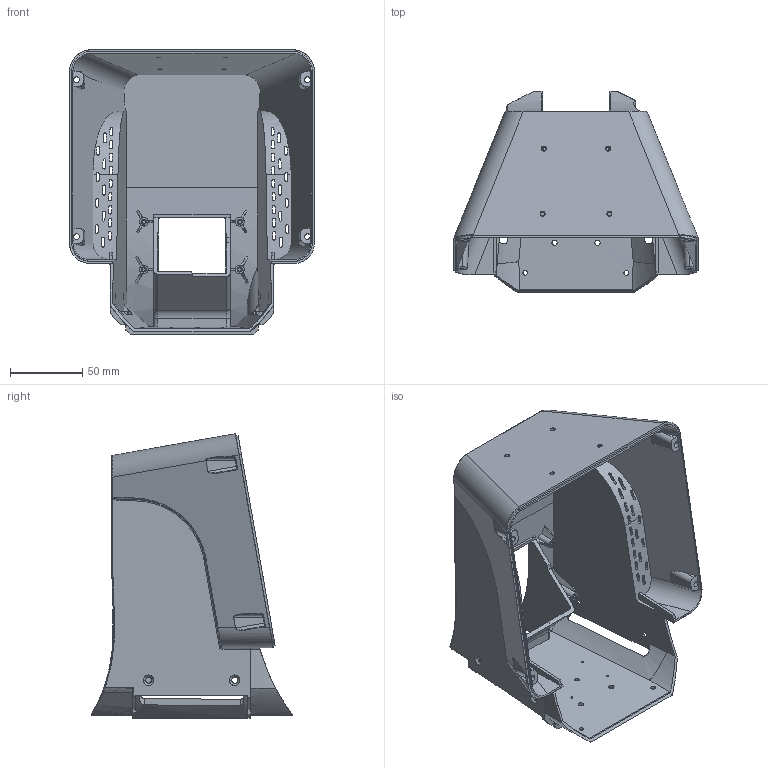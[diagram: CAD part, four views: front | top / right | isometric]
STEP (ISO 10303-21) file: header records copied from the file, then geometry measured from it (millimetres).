
FILE_DESCRIPTION(/* description */ ('STEP AP242 Edition 2','CAx-IF Rec.Pracs.---Representation and Presentation of Product Manufacturing Information (PMI)---4.0---2014-10-13','CAx-IF Rec.Pracs.---3D Tessellated Geometry---0.4---2014-09-14','2;1','CAx-IF Rec.Pracs.---User Defined Attributes---1.5---2016-08-15'),/* implementation_level */ '2;1');
FILE_NAME(/* name */ 'Assy_ForMFG - KD-H-103X_HeadBack',/* time_stamp */ '2026-05-15T19:56:45Z',/* author */ (''),/* organization */ (''),/* preprocessor_version */ 'ST-DEVELOPER v20',/* originating_system */ 'ONSHAPE BY PTC INC, 1.215',/* authorisation */ ' ');
FILE_SCHEMA (('AP242_MANAGED_MODEL_BASED_3D_ENGINEERING_MIM_LF { 1 0 10303 442 3 1 4 }'));
Products named in the file (1): KD-H-103X_HeadBack
Bounding box: 169.18 x 139.35 x 196.6 mm (x, y, z)
Volume: 231363.8 mm3; surface area: 176595.3 mm2
Topology: 1 solids, 1 shells, 842 faces, 2283 edges, 1439 vertices
Faces by surface type: cylinder 323, plane 287, bspline 208, torus 18, cone 4, sphere 2
Full cylindrical faces by diameter (mm): 1.5 x4, 2.5 x4, 3 x5, 3.11 x1, 3.4 x1, 3.6 x2, 3.962 x4, 4 x4, 4.3 x4, 6 x4, 6.5 x2
Entity records: 51408 total; most frequent: CARTESIAN_POINT 32021, ORIENTED_EDGE 4406, DIRECTION 3407, EDGE_CURVE 2203, VERTEX_POINT 1404, AXIS2_PLACEMENT_3D 1225, EDGE_LOOP 1003, FACE_BOUND 1003
